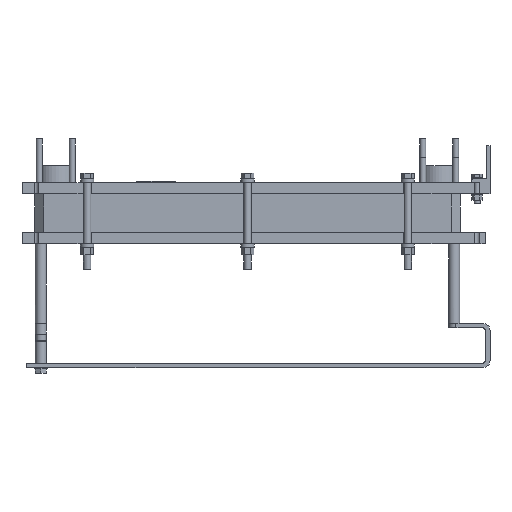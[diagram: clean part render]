
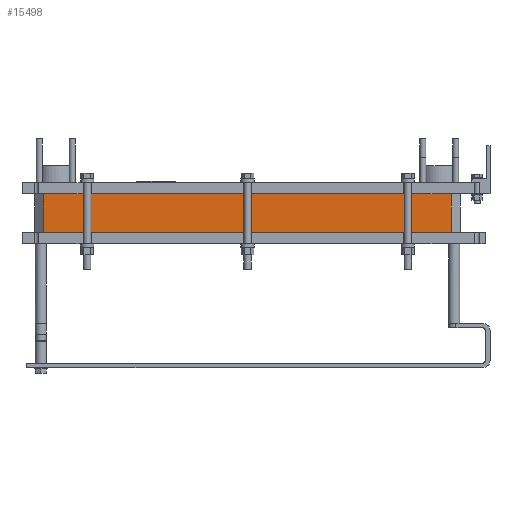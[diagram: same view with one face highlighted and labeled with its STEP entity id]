
A CAD part, left-side view. The second image highlights one B-rep face of the part: STEP entity #15498.
In plain terms, the highlighted planar face has unit normal (-1, 0, 0).
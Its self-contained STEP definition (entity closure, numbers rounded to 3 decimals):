
#1466=LINE('',#25351,#3061);
#1504=LINE('',#25451,#3099);
#1581=LINE('',#25620,#3176);
#1582=LINE('',#25622,#3177);
#3061=VECTOR('',#20768,1100.);
#3099=VECTOR('',#20836,1100.);
#3176=VECTOR('',#21073,105.);
#3177=VECTOR('',#21076,105.);
#3778=PLANE('',#16875);
#4825=FACE_OUTER_BOUND('',#5876,.T.);
#5876=EDGE_LOOP('',(#14021,#14022,#14023,#14024));
#7881=VERTEX_POINT('',#25348);
#7882=VERTEX_POINT('',#25350);
#7928=VERTEX_POINT('',#25448);
#7929=VERTEX_POINT('',#25450);
#9875=EDGE_CURVE('',#7881,#7882,#1466,.T.);
#9923=EDGE_CURVE('',#7929,#7928,#1504,.T.);
#10006=EDGE_CURVE('',#7881,#7929,#1581,.T.);
#10007=EDGE_CURVE('',#7882,#7928,#1582,.T.);
#14021=ORIENTED_EDGE('',*,*,#9923,.T.);
#14022=ORIENTED_EDGE('',*,*,#10007,.F.);
#14023=ORIENTED_EDGE('',*,*,#9875,.F.);
#14024=ORIENTED_EDGE('',*,*,#10006,.T.);
#15498=ADVANCED_FACE('',(#4825),#3778,.T.);
#16875=AXIS2_PLACEMENT_3D('',#25621,#21074,#21075);
#20768=DIRECTION('',(0.,-1.,0.));
#20836=DIRECTION('',(0.,-1.,0.));
#21073=DIRECTION('',(0.,0.,-1.));
#21074=DIRECTION('center_axis',(-1.,0.,0.));
#21075=DIRECTION('ref_axis',(0.,0.,1.));
#21076=DIRECTION('',(0.,0.,-1.));
#25348=CARTESIAN_POINT('',(-125.,550.,0.));
#25350=CARTESIAN_POINT('',(-125.,-550.,0.));
#25351=CARTESIAN_POINT('',(-125.,264.791,0.));
#25448=CARTESIAN_POINT('',(-125.,-550.,-105.));
#25450=CARTESIAN_POINT('',(-125.,550.,-105.));
#25451=CARTESIAN_POINT('',(-125.,575.,-105.));
#25620=CARTESIAN_POINT('',(-125.,550.,0.));
#25621=CARTESIAN_POINT('Origin',(-125.,550.,0.));
#25622=CARTESIAN_POINT('',(-125.,-550.,0.));
